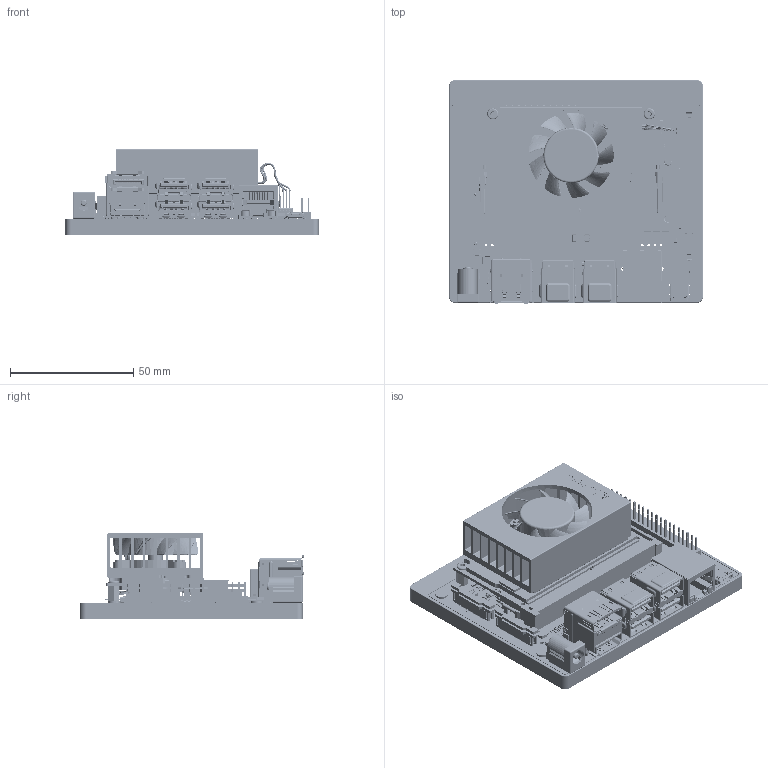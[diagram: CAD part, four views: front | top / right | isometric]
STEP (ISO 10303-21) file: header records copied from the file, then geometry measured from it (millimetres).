
FILE_DESCRIPTION((''),'2;1');
FILE_NAME('TOP_ASSY_P3518_ASM','2020-02-04T',('ysung'),(''),'CREO PARAMETRIC BY PTC INC, 2018070','CREO PARAMETRIC BY PTC INC, 2018070','');
FILE_SCHEMA(('CONFIG_CONTROL_DESIGN','GEOMETRIC_VALIDATION_PROPERTIES_MIM'));
Products named in the file (125): 142-13509-1000-A01-SKU0000; LOGO_SILK_KC_050X033; LOGO_SILK_FCC_I0440X0165; LOGO_SILK_UKRAINE_0500X0500; LOGO_SILK_NCC_0596X0599; LOGO_SILK_MIC_0507X0505; LOGO_SILK_IFETEL_1444X0093; LS_CTUVUS_0500X0500_SIMPLE; LOGO_SILK_ANATEL_0627X0633; 080-1761-000_1; 080-1743-000_1; 092-0073-000_1; 086-0282-000_1; 085-0347-000_1; LOGO_LABEL_PPID_0180X0050; 065-0738-000_1; 074-0239-000_1; 0201_H030; 064-0437-000_1; 115-2766-000_1; MEC_STANDOFF_PTH_620C380P; 080-1368-000_1; 115-1921-000_3; 064-0374-000_2; 080-1742-000_1; 0402_H040; 0402_H060; VIRTUAL_SHORT; 090-0296-000_2; LOGO_SILK_CE_I0175X0160; LS_ICES_I0925X0040_CLASS_B; LOGO_SILK_POSTAL_ADDRESS; LL_VENDOR_DATECODE_BOT_1R; 090-0172-000_1; 090-0243-000_1; 090-0337-000_2; LOGO_SILK_HF_I0185X0120; LOGO_SILK_BSMI_I0138H; LOGO_SILK_RCM_040X030; LOGO_SILK_VCCI_I0300X0225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
Assembly tree (554 placements, depth 6):
  TOP_ASSY_P3518_ASM
    642-13518_SYS_BOM_ASM
      699-13509_DEVKIT_PCB_ASM
        142-13509-1000-A01-SKU0000_ASM
          142-13509-1000-A01-SKU0000
          LOGO_SILK_KC_050X033
          LOGO_SILK_FCC_I0440X0165
          LOGO_SILK_UKRAINE_0500X0500
          LOGO_SILK_NCC_0596X0599
          LOGO_SILK_MIC_0507X0505
          LOGO_SILK_IFETEL_1444X0093
          LS_CTUVUS_0500X0500_SIMPLE
          LOGO_SILK_ANATEL_0627X0633
          080-1761-000_1
          080-1743-000_1
          092-0073-000_1
          086-0282-000_1
          085-0347-000_1
          LOGO_LABEL_PPID_0180X0050
          065-0738-000_1  x2
          074-0239-000_1
          0201_H030  x8
          064-0437-000_1
          115-2766-000_1  x2
          MEC_STANDOFF_PTH_620C380P  x2
          080-1368-000_1
          115-1921-000_3  x3
          064-0374-000_2
          080-1742-000_1
          0402_H040  x170
          0402_H060  x104
          VIRTUAL_SHORT  x16
          090-0296-000_2  x11
          LOGO_SILK_CE_I0175X0160
          LS_ICES_I0925X0040_CLASS_B
          LOGO_SILK_POSTAL_ADDRESS
          LL_VENDOR_DATECODE_BOT_1R
          090-0172-000_1  x26
          090-0243-000_1  x7
          090-0337-000_2
          LOGO_SILK_HF_I0185X0120
          LOGO_SILK_BSMI_I0138H
          LOGO_SILK_RCM_040X030
          LOGO_SILK_VCCI_I0300X0225
          LOGO_SILK_WEEE_0485X0683
          LOGO_SILK_ROHS_I0300X0153
          LOGO_SILK_ROHS_D050_CHINA
          LOGO_SILK_NVIDIA_I0600X0330
          FID_40_80SM  x6
          090-0233-000_1
          090-0378-000_1
          064-0373-000_2
          LOGO_SILK_180_I560
          0805_H150  x6
          0805_H070  x2
          0805_H160  x8
          0603_H100  x20
          0603_H060  x3
          115-2594-000_2
          115-0655-000_3
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Bounding box: 103 x 91.03 x 34.66 mm (x, y, z)
Volume: 70509.1 mm3; surface area: 111689.5 mm2
Topology: 849 solids, 888 shells, 49581 faces, 135243 edges, 88084 vertices
Faces by surface type: plane 39114, cylinder 8989, bspline 713, cone 276, torus 272, sphere 163, extrusion 54
Entity records: 1516645 total; most frequent: CARTESIAN_POINT 252311, ORIENTED_EDGE 199094, DIRECTION 184756, EDGE_CURVE 99547, PRESENTATION_STYLE_ASSIGNMENT 82995, VECTOR 82798, LINE 82752, STYLED_ITEM 78904
